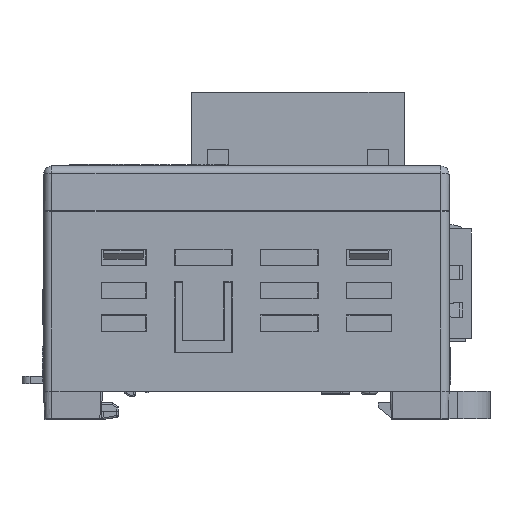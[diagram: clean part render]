
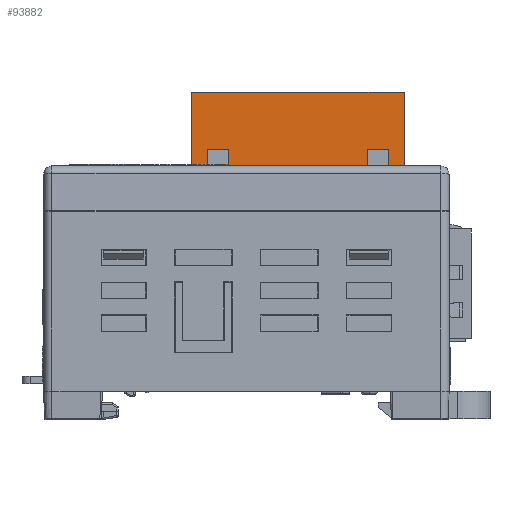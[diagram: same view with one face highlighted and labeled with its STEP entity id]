
A CAD part, left-side view. The second image highlights one B-rep face of the part: STEP entity #93882.
In plain terms, the highlighted planar face has unit normal (-1, 0, 0).
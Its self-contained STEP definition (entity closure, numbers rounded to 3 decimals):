
#1060=DIRECTION('',(0.,1.,0.));
#1061=VECTOR('',#1060,1.);
#1062=CARTESIAN_POINT('',(-13.22,-19.25,27.5));
#1063=LINE('',#1062,#1061);
#1076=DIRECTION('',(0.,1.,0.));
#1077=VECTOR('',#1076,1.);
#1078=CARTESIAN_POINT('',(-13.22,-13.3,27.5));
#1079=LINE('',#1078,#1077);
#1092=DIRECTION('',(0.,1.,0.));
#1093=VECTOR('',#1092,1.);
#1094=CARTESIAN_POINT('',(-13.22,-6.8,27.5));
#1095=LINE('',#1094,#1093);
#1108=DIRECTION('',(0.,1.,0.));
#1109=VECTOR('',#1108,1.);
#1110=CARTESIAN_POINT('',(-13.22,-0.3,27.5));
#1111=LINE('',#1110,#1109);
#1124=DIRECTION('',(0.,1.,0.));
#1125=VECTOR('',#1124,1.);
#1126=CARTESIAN_POINT('',(-13.22,5.65,27.5));
#1127=LINE('',#1126,#1125);
#8274=DIRECTION('',(0.,-1.,0.));
#8275=VECTOR('',#8274,0.9);
#8276=CARTESIAN_POINT('',(-13.22,-17.35,28.));
#8277=LINE('',#8276,#8275);
#8278=DIRECTION('',(0.,-1.,0.));
#8279=VECTOR('',#8278,2.6);
#8280=CARTESIAN_POINT('',(-13.22,-14.75,33.));
#8281=LINE('',#8280,#8279);
#8282=DIRECTION('',(0.,0.,1.));
#8283=VECTOR('',#8282,5.);
#8284=CARTESIAN_POINT('',(-13.22,-14.75,28.));
#8285=LINE('',#8284,#8283);
#8286=DIRECTION('',(0.,-1.,0.));
#8287=VECTOR('',#8286,1.45);
#8288=CARTESIAN_POINT('',(-13.22,-13.3,28.));
#8289=LINE('',#8288,#8287);
#8290=DIRECTION('',(0.,-1.,0.));
#8291=VECTOR('',#8290,5.5);
#8292=CARTESIAN_POINT('',(-13.22,-6.8,28.));
#8293=LINE('',#8292,#8291);
#8294=DIRECTION('',(0.,-1.,0.));
#8295=VECTOR('',#8294,5.5);
#8296=CARTESIAN_POINT('',(-13.22,-0.3,28.));
#8297=LINE('',#8296,#8295);
#8298=DIRECTION('',(0.,-1.,0.));
#8299=VECTOR('',#8298,1.45);
#8300=CARTESIAN_POINT('',(-13.22,2.15,28.));
#8301=LINE('',#8300,#8299);
#8302=DIRECTION('',(0.,-1.,0.));
#8303=VECTOR('',#8302,0.9);
#8304=CARTESIAN_POINT('',(-13.22,5.65,28.));
#8305=LINE('',#8304,#8303);
#8314=DIRECTION('',(0.,0.,1.));
#8315=VECTOR('',#8314,0.5);
#8316=CARTESIAN_POINT('',(-13.22,-18.25,27.5));
#8317=LINE('',#8316,#8315);
#8330=DIRECTION('',(0.,0.,-1.));
#8331=VECTOR('',#8330,12.5);
#8332=CARTESIAN_POINT('',(-13.22,-19.25,40.));
#8333=LINE('',#8332,#8331);
#8462=DIRECTION('',(0.,0.,1.));
#8463=VECTOR('',#8462,12.5);
#8464=CARTESIAN_POINT('',(-13.22,6.65,27.5));
#8465=LINE('',#8464,#8463);
#10212=DIRECTION('',(0.,0.,-1.));
#10213=VECTOR('',#10212,0.5);
#10214=CARTESIAN_POINT('',(-13.22,5.65,28.));
#10215=LINE('',#10214,#10213);
#10480=DIRECTION('',(0.,0.,-1.));
#10481=VECTOR('',#10480,5.);
#10482=CARTESIAN_POINT('',(-13.22,-17.35,33.));
#10483=LINE('',#10482,#10481);
#10816=DIRECTION('',(0.,0.,1.));
#10817=VECTOR('',#10816,5.);
#10818=CARTESIAN_POINT('',(-13.22,4.75,28.));
#10819=LINE('',#10818,#10817);
#10836=DIRECTION('',(0.,-1.,0.));
#10837=VECTOR('',#10836,2.6);
#10838=CARTESIAN_POINT('',(-13.22,4.75,33.));
#10839=LINE('',#10838,#10837);
#10844=DIRECTION('',(0.,0.,-1.));
#10845=VECTOR('',#10844,5.);
#10846=CARTESIAN_POINT('',(-13.22,2.15,33.));
#10847=LINE('',#10846,#10845);
#13800=DIRECTION('',(0.,-1.,0.));
#13801=VECTOR('',#13800,25.9);
#13802=CARTESIAN_POINT('',(-13.22,6.65,40.));
#13803=LINE('',#13802,#13801);
#14060=DIRECTION('',(0.,0.,-1.));
#14061=VECTOR('',#14060,0.5);
#14062=CARTESIAN_POINT('',(-13.22,-13.3,28.));
#14063=LINE('',#14062,#14061);
#14084=DIRECTION('',(0.,0.,1.));
#14085=VECTOR('',#14084,0.5);
#14086=CARTESIAN_POINT('',(-13.22,-12.3,27.5));
#14087=LINE('',#14086,#14085);
#14088=DIRECTION('',(0.,0.,-1.));
#14089=VECTOR('',#14088,0.5);
#14090=CARTESIAN_POINT('',(-13.22,-6.8,28.));
#14091=LINE('',#14090,#14089);
#14112=DIRECTION('',(0.,0.,1.));
#14113=VECTOR('',#14112,0.5);
#14114=CARTESIAN_POINT('',(-13.22,-5.8,27.5));
#14115=LINE('',#14114,#14113);
#14116=DIRECTION('',(0.,0.,-1.));
#14117=VECTOR('',#14116,0.5);
#14118=CARTESIAN_POINT('',(-13.22,-0.3,28.));
#14119=LINE('',#14118,#14117);
#14140=DIRECTION('',(0.,0.,1.));
#14141=VECTOR('',#14140,0.5);
#14142=CARTESIAN_POINT('',(-13.22,0.7,27.5));
#14143=LINE('',#14142,#14141);
#67155=CARTESIAN_POINT('',(-13.22,-14.75,28.));
#67157=VERTEX_POINT('',#67155);
#67160=CARTESIAN_POINT('',(-13.22,-17.35,28.));
#67161=VERTEX_POINT('',#67160);
#67162=CARTESIAN_POINT('',(-13.22,-18.25,28.));
#67163=VERTEX_POINT('',#67162);
#67240=CARTESIAN_POINT('',(-13.22,5.65,28.));
#67241=VERTEX_POINT('',#67240);
#67242=CARTESIAN_POINT('',(-13.22,4.75,28.));
#67243=VERTEX_POINT('',#67242);
#67248=CARTESIAN_POINT('',(-13.22,2.15,28.));
#67249=VERTEX_POINT('',#67248);
#67250=CARTESIAN_POINT('',(-13.22,0.7,28.));
#67251=VERTEX_POINT('',#67250);
#67256=CARTESIAN_POINT('',(-13.22,-0.3,28.));
#67257=VERTEX_POINT('',#67256);
#67258=CARTESIAN_POINT('',(-13.22,-5.8,28.));
#67259=VERTEX_POINT('',#67258);
#67264=CARTESIAN_POINT('',(-13.22,-6.8,28.));
#67265=VERTEX_POINT('',#67264);
#67266=CARTESIAN_POINT('',(-13.22,-12.3,28.));
#67267=VERTEX_POINT('',#67266);
#67272=CARTESIAN_POINT('',(-13.22,-13.3,28.));
#67273=VERTEX_POINT('',#67272);
#68276=CARTESIAN_POINT('',(-13.22,-17.35,33.));
#68277=VERTEX_POINT('',#68276);
#68278=CARTESIAN_POINT('',(-13.22,-14.75,33.));
#68279=VERTEX_POINT('',#68278);
#68280=CARTESIAN_POINT('',(-13.22,2.15,33.));
#68281=VERTEX_POINT('',#68280);
#68282=CARTESIAN_POINT('',(-13.22,4.75,33.));
#68283=VERTEX_POINT('',#68282);
#68284=CARTESIAN_POINT('',(-13.22,6.65,40.));
#68285=CARTESIAN_POINT('',(-13.22,-19.25,40.));
#68286=VERTEX_POINT('',#68284);
#68287=VERTEX_POINT('',#68285);
#78133=CARTESIAN_POINT('',(-13.22,-19.25,27.5));
#78134=CARTESIAN_POINT('',(-13.22,-18.25,27.5));
#78135=VERTEX_POINT('',#78133);
#78136=VERTEX_POINT('',#78134);
#78137=CARTESIAN_POINT('',(-13.22,-13.3,27.5));
#78138=CARTESIAN_POINT('',(-13.22,-12.3,27.5));
#78139=VERTEX_POINT('',#78137);
#78140=VERTEX_POINT('',#78138);
#78141=CARTESIAN_POINT('',(-13.22,-6.8,27.5));
#78142=CARTESIAN_POINT('',(-13.22,-5.8,27.5));
#78143=VERTEX_POINT('',#78141);
#78144=VERTEX_POINT('',#78142);
#78145=CARTESIAN_POINT('',(-13.22,-0.3,27.5));
#78146=CARTESIAN_POINT('',(-13.22,0.7,27.5));
#78147=VERTEX_POINT('',#78145);
#78148=VERTEX_POINT('',#78146);
#78149=CARTESIAN_POINT('',(-13.22,5.65,27.5));
#78150=CARTESIAN_POINT('',(-13.22,6.65,27.5));
#78151=VERTEX_POINT('',#78149);
#78152=VERTEX_POINT('',#78150);
#93831=CARTESIAN_POINT('',(-13.22,-6.3,33.5));
#93832=DIRECTION('',(1.,0.,0.));
#93833=DIRECTION('',(0.,0.,-1.));
#93834=AXIS2_PLACEMENT_3D('',#93831,#93832,#93833);
#93835=PLANE('',#93834);
#93836=ORIENTED_EDGE('',*,*,#79887,.T.);
#93838=ORIENTED_EDGE('',*,*,#93837,.T.);
#93839=ORIENTED_EDGE('',*,*,#93164,.F.);
#93841=ORIENTED_EDGE('',*,*,#93840,.F.);
#93843=ORIENTED_EDGE('',*,*,#93842,.F.);
#93844=ORIENTED_EDGE('',*,*,#93813,.F.);
#93845=ORIENTED_EDGE('',*,*,#93276,.F.);
#93847=ORIENTED_EDGE('',*,*,#93846,.T.);
#93848=ORIENTED_EDGE('',*,*,#79897,.T.);
#93850=ORIENTED_EDGE('',*,*,#93849,.T.);
#93851=ORIENTED_EDGE('',*,*,#93268,.F.);
#93853=ORIENTED_EDGE('',*,*,#93852,.T.);
#93854=ORIENTED_EDGE('',*,*,#79907,.T.);
#93856=ORIENTED_EDGE('',*,*,#93855,.T.);
#93857=ORIENTED_EDGE('',*,*,#93260,.F.);
#93859=ORIENTED_EDGE('',*,*,#93858,.T.);
#93860=ORIENTED_EDGE('',*,*,#79917,.T.);
#93862=ORIENTED_EDGE('',*,*,#93861,.T.);
#93863=ORIENTED_EDGE('',*,*,#93252,.F.);
#93865=ORIENTED_EDGE('',*,*,#93864,.F.);
#93867=ORIENTED_EDGE('',*,*,#93866,.F.);
#93869=ORIENTED_EDGE('',*,*,#93868,.F.);
#93870=ORIENTED_EDGE('',*,*,#93244,.F.);
#93872=ORIENTED_EDGE('',*,*,#93871,.T.);
#93873=ORIENTED_EDGE('',*,*,#79927,.T.);
#93875=ORIENTED_EDGE('',*,*,#93874,.T.);
#93877=ORIENTED_EDGE('',*,*,#93876,.T.);
#93879=ORIENTED_EDGE('',*,*,#93878,.T.);
#93880=EDGE_LOOP('',(#93836,#93838,#93839,#93841,#93843,#93844,#93845,#93847,
#93848,#93850,#93851,#93853,#93854,#93856,#93857,#93859,#93860,#93862,#93863,
#93865,#93867,#93869,#93870,#93872,#93873,#93875,#93877,#93879));
#93881=FACE_OUTER_BOUND('',#93880,.F.);
#93882=ADVANCED_FACE('',(#93881),#93835,.F.);
#79887=EDGE_CURVE('',#78135,#78136,#1063,.T.);
#79897=EDGE_CURVE('',#78139,#78140,#1079,.T.);
#79907=EDGE_CURVE('',#78143,#78144,#1095,.T.);
#79917=EDGE_CURVE('',#78147,#78148,#1111,.T.);
#79927=EDGE_CURVE('',#78151,#78152,#1127,.T.);
#93164=EDGE_CURVE('',#67161,#67163,#8277,.T.);
#93244=EDGE_CURVE('',#67241,#67243,#8305,.T.);
#93252=EDGE_CURVE('',#67249,#67251,#8301,.T.);
#93260=EDGE_CURVE('',#67257,#67259,#8297,.T.);
#93268=EDGE_CURVE('',#67265,#67267,#8293,.T.);
#93276=EDGE_CURVE('',#67273,#67157,#8289,.T.);
#93813=EDGE_CURVE('',#67157,#68279,#8285,.T.);
#93837=EDGE_CURVE('',#78136,#67163,#8317,.T.);
#93840=EDGE_CURVE('',#68277,#67161,#10483,.T.);
#93842=EDGE_CURVE('',#68279,#68277,#8281,.T.);
#93846=EDGE_CURVE('',#67273,#78139,#14063,.T.);
#93849=EDGE_CURVE('',#78140,#67267,#14087,.T.);
#93852=EDGE_CURVE('',#67265,#78143,#14091,.T.);
#93855=EDGE_CURVE('',#78144,#67259,#14115,.T.);
#93858=EDGE_CURVE('',#67257,#78147,#14119,.T.);
#93861=EDGE_CURVE('',#78148,#67251,#14143,.T.);
#93864=EDGE_CURVE('',#68281,#67249,#10847,.T.);
#93866=EDGE_CURVE('',#68283,#68281,#10839,.T.);
#93868=EDGE_CURVE('',#67243,#68283,#10819,.T.);
#93871=EDGE_CURVE('',#67241,#78151,#10215,.T.);
#93874=EDGE_CURVE('',#78152,#68286,#8465,.T.);
#93876=EDGE_CURVE('',#68286,#68287,#13803,.T.);
#93878=EDGE_CURVE('',#68287,#78135,#8333,.T.);
